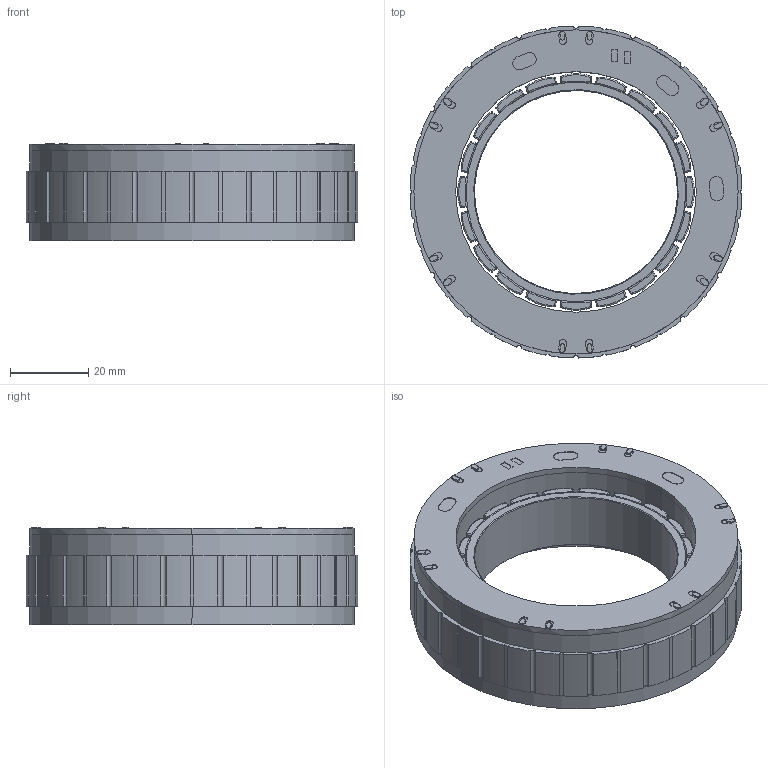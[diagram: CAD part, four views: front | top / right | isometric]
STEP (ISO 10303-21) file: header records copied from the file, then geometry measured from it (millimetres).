
FILE_DESCRIPTION (( 'STEP AP203' ), '1' );
FILE_NAME ('307091741SS£¨FMK08513-0037-2952N-10DP02£©-V1.3.STEP', '2025-12-16T05:36:16', ( '' ), ( '' ), 'SwSTEP 2.0', 'SolidWorks 2023', '' );
FILE_SCHEMA (( 'CONFIG_CONTROL_DESIGN' ));
Length unit declared in the file: millimetre
Products named in the file (1): 307091741SS（FMK08513-0037-2952N-10DP02）-V1.3
Bounding box: 84.99 x 84.99 x 24.85 mm (x, y, z)
Volume: 73268.3 mm3; surface area: 29663.5 mm2
Topology: 3 solids, 3 shells, 834 faces, 2009 edges, 1118 vertices
Faces by surface type: cylinder 337, plane 233, sphere 180, torus 80, cone 4
Entity records: 23112 total; most frequent: DIRECTION 4565, CARTESIAN_POINT 3782, ORIENTED_EDGE 3738, EDGE_CURVE 1869, AXIS2_PLACEMENT_3D 1861, VERTEX_POINT 1078, CIRCLE 1026, EDGE_LOOP 877
